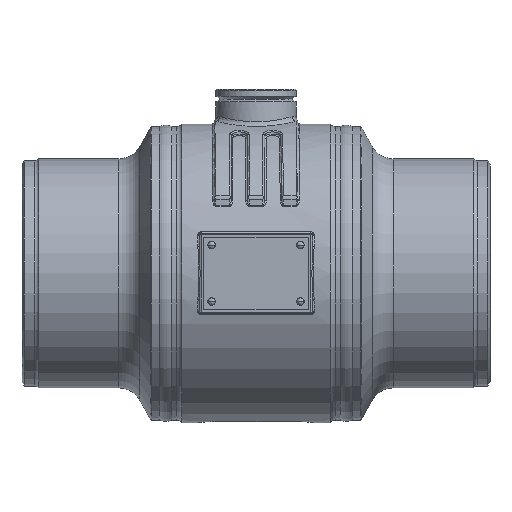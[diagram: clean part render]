
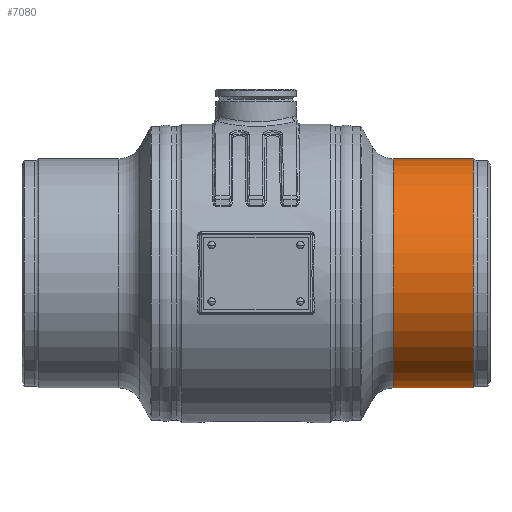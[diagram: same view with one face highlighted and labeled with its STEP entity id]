
A CAD part, front view. The second image highlights one B-rep face of the part: STEP entity #7080.
In plain terms, the highlighted cylindrical face has radius 71 mm (diameter 142 mm), a partial arc.
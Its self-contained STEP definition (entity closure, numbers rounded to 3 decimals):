
#1=CARTESIAN_POINT('',(134.638,0.,0.));
#2=DIRECTION('',(1.,0.,0.));
#3=DIRECTION('',(0.,0.,1.));
#4=AXIS2_PLACEMENT_3D('',#1,#2,#3);
#6=CARTESIAN_POINT('',(85.006,0.,0.));
#7=DIRECTION('',(-1.,0.,0.));
#8=DIRECTION('',(0.,0.,-1.));
#9=AXIS2_PLACEMENT_3D('',#6,#7,#8);
#16=DIRECTION('',(1.,0.,0.));
#17=VECTOR('',#16,49.632);
#18=CARTESIAN_POINT('',(85.006,0.,71.));
#19=LINE('',#18,#17);
#25=DIRECTION('',(1.,0.,0.));
#26=VECTOR('',#25,49.632);
#27=CARTESIAN_POINT('',(85.006,0.,-71.));
#28=LINE('',#27,#26);
#6784=CARTESIAN_POINT('',(85.006,0.,-71.));
#6785=CARTESIAN_POINT('',(85.006,0.,71.));
#6786=VERTEX_POINT('',#6784);
#6787=VERTEX_POINT('',#6785);
#6836=CARTESIAN_POINT('',(134.638,0.,71.));
#6837=CARTESIAN_POINT('',(134.638,0.,-71.));
#6838=VERTEX_POINT('',#6836);
#6839=VERTEX_POINT('',#6837);
#7066=CARTESIAN_POINT('',(50.65,0.,0.));
#7067=DIRECTION('',(1.,0.,0.));
#7068=DIRECTION('',(0.,0.,-1.));
#7069=AXIS2_PLACEMENT_3D('',#7066,#7067,#7068);
#7070=CYLINDRICAL_SURFACE('',#7069,71.);
#7071=ORIENTED_EDGE('',*,*,#7055,.T.);
#7073=ORIENTED_EDGE('',*,*,#7072,.F.);
#7075=ORIENTED_EDGE('',*,*,#7074,.T.);
#7077=ORIENTED_EDGE('',*,*,#7076,.T.);
#7078=EDGE_LOOP('',(#7071,#7073,#7075,#7077));
#7079=FACE_OUTER_BOUND('',#7078,.F.);
#7080=ADVANCED_FACE('',(#7079),#7070,.T.);
#5=CIRCLE('',#4,71.);
#10=CIRCLE('',#9,71.);
#7055=EDGE_CURVE('',#6838,#6839,#5,.T.);
#7072=EDGE_CURVE('',#6786,#6839,#28,.T.);
#7074=EDGE_CURVE('',#6786,#6787,#10,.T.);
#7076=EDGE_CURVE('',#6787,#6838,#19,.T.);
